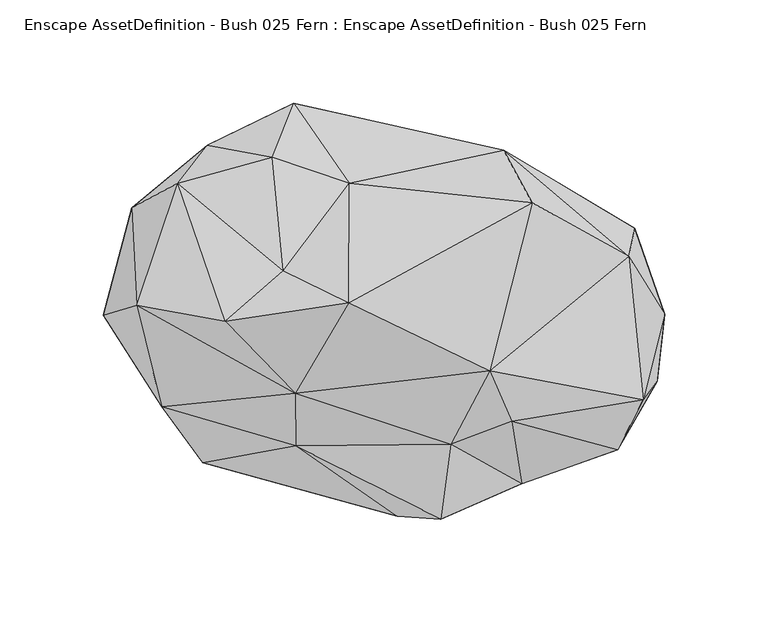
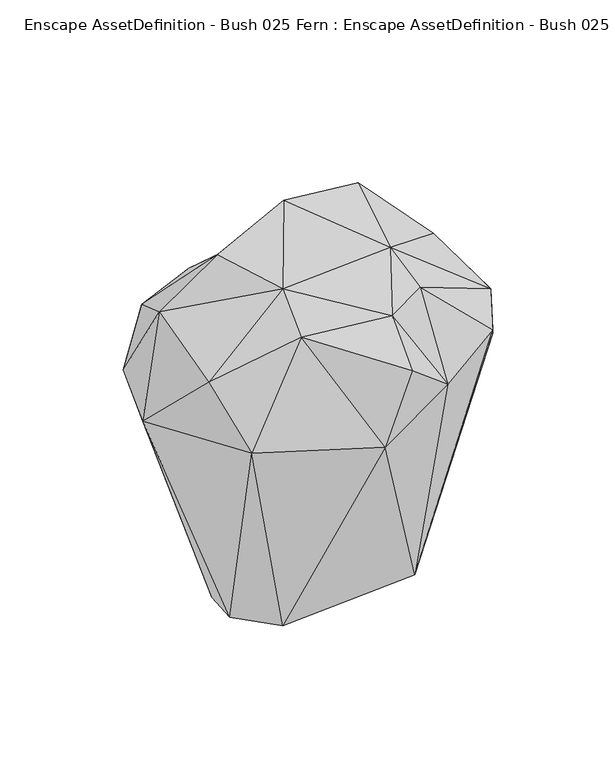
"""IFC4 building model written with IfcOpenShell, lengths in millimetres: geographic element geometry, Enscape AssetDefinition - Bush 025 Fern : Enscape AssetDefinition - Bush 025 Fern."""

from ifc_helpers import new_model, si_unit, origin, place, context, project, spatial, triangles, source, transform, mapped, element, save


def enscape_assetdefinition_bush_025_fern_enscape_5718bf32(model_context):
    return source(origin(), model_context, "Body", "Tessellation", [
        triangles([(31.6629996, 37.7489994, 0.0), (48.3570002, 84.0689964, 217.4009924), (111.5610048, 46.2069997, 159.9929958), (73.1059983, 3.1850002, 0.0), (51.0660009, 26.3659983, 0.0), (126.0710021, 4.729, 174.4620073), (122.449003, -27.6810002, 180.6529993), (115.6629982, -36.6989999, 226.7799984), (103.408005, -60.7260036, 210.3540025), (54.6329979, -34.6769985, 0.0), (52.111999, -47.0549994, 256.8489843), (56.937999, -77.2920027, 189.4150008), (22.6650001, -58.1889991, 249.3330005), (17.897001, -94.4359963, 225.5160131), (62.1259999, 58.6899996, 279.6570035), (41.3960016, -22.5759998, 280.1789919), (108.7379939, 32.728001, 235.4650061), (-26.7430011, 10.3369996, 325.0510168), (-117.0300023, -40.1170008, 229.4760003), (-52.5869973, -33.5839989, 284.1689919), (-52.2200002, -58.799, 257.1890071), (-3.227, -92.9730042, 165.8709982), (-97.2929985, -67.0840003, 177.7529946), (-131.5619914, 56.1390016, 187.0689958), (-129.2449998, 8.9399998, 265.3000128), (-86.3870054, 1.19, 304.1549994), (-109.3899981, 67.9660004, 229.1119964), (-145.3250049, 4.2710003, 178.7600008), (-83.9930018, 13.0470007, 0.0), (-85.1110022, -14.5910005, 0.0), (-58.1249995, -42.8380011, 0.0), (-95.1170048, 86.3930007, 185.0879939), (-53.3560001, 106.6590056, 174.5329877), (-13.9990002, 45.090003, 0.0), (-55.0139976, 41.4590019, 0.0), (-63.6499984, 80.5570015, 236.5159957), (-58.4449973, 25.7329996, 286.4009959), (-26.4790001, 67.9709965, 250.1240132)], [[1, 34, 33], [18, 15, 38], [18, 38, 37], [36, 37, 38], [38, 33, 36], [32, 36, 33], [33, 34, 35], [35, 32, 33], [23, 31, 22], [23, 30, 31], [30, 23, 28], [28, 29, 30], [32, 35, 24], [29, 28, 24], [24, 35, 29], [32, 27, 36], [27, 37, 36], [27, 32, 24], [18, 37, 26], [27, 26, 37], [26, 27, 25], [25, 24, 28], [27, 24, 25], [23, 19, 28], [25, 28, 19], [22, 14, 21], [23, 21, 19], [21, 23, 22], [20, 26, 25], [20, 25, 19], [18, 26, 20], [20, 19, 21], [18, 16, 15], [15, 16, 17], [18, 20, 16], [16, 20, 13], [13, 21, 14], [13, 20, 21], [12, 14, 22], [13, 14, 12], [13, 12, 11], [16, 13, 11], [16, 8, 17], [8, 16, 11], [9, 8, 11], [11, 12, 9], [10, 12, 22], [12, 10, 9], [22, 31, 10], [7, 8, 9], [10, 7, 9], [8, 6, 17], [7, 6, 8], [7, 10, 4], [7, 4, 6], [4, 3, 6], [3, 17, 6], [3, 4, 5], [38, 2, 33], [2, 38, 15], [1, 2, 5], [3, 2, 17], [1, 33, 2], [5, 2, 3], [2, 15, 17]], closed=False),
    ])


if __name__ == "__main__":
    model = new_model("IFC4")
    model_context = context("Model", 3, world=origin())
    ifc_project = project(units=[si_unit("LENGTHUNIT", "METRE", prefix="MILLI")], contexts=[model_context])
    site = spatial("IfcSite", under=ifc_project)
    building = spatial("IfcBuilding", under=site)
    placement = place(None, origin())
    enscape_assetdefinition_bush_025_fern_enscape_shape = enscape_assetdefinition_bush_025_fern_enscape_5718bf32(model_context)
    element("IfcGeographicElement", 1, ObjectType="Enscape AssetDefinition - Bush 025 Fern : Enscape AssetDefinition - Bush 025 Fern", at=placement, inside=building, context=model_context, shape_type="MappedRepresentation", body=[
        mapped(enscape_assetdefinition_bush_025_fern_enscape_shape, transform((0.0, 0.0, 0.0), x_axis=(1.0, 0.0, 0.0), y_axis=(0.0, 1.0, 0.0), z_axis=(0.0, 0.0, 1.0))),
    ])
    save(model, "model.ifc")
